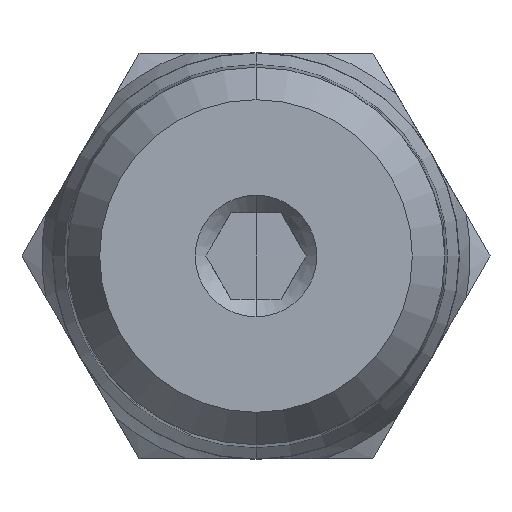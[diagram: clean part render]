
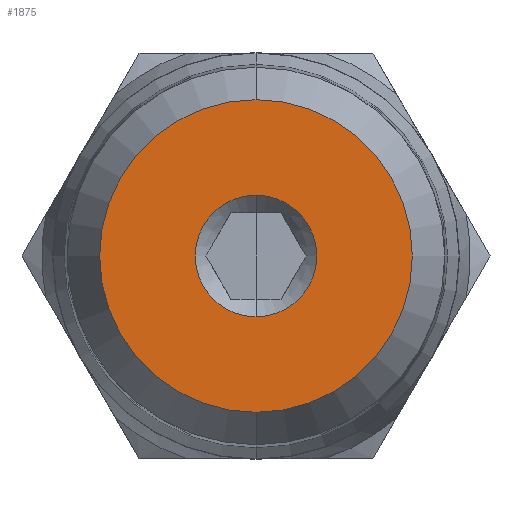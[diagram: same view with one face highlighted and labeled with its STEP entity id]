
A CAD part, front view. The second image highlights one B-rep face of the part: STEP entity #1875.
In plain terms, the highlighted planar face has unit normal (0, -1, 0).
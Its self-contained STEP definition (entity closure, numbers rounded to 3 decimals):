
#1633 = EDGE_CURVE ( 'NONE', #12398, #12400, #9580, .T. ) ;
#1634 = EDGE_CURVE ( 'NONE', #12423, #12405, #9583, .T. ) ;
#1875 = ADVANCED_FACE ( 'NONE', ( #10451, #10452 ), #2373, .T. ) ;
#1981 = CARTESIAN_POINT ( 'NONE',  ( 0., 0., 0. ) ) ;
#1982 = DIRECTION ( 'NONE',  ( 0., 1., 0. ) ) ;
#1983 = DIRECTION ( 'NONE',  ( 0., 0., 1. ) ) ;
#1984 = CARTESIAN_POINT ( 'NONE',  ( 0., 0., 0. ) ) ;
#1985 = DIRECTION ( 'NONE',  ( 0., -1., 0. ) ) ;
#1986 = DIRECTION ( 'NONE',  ( 0., 0., -1. ) ) ;
#2373 = PLANE ( 'NONE',  #11291 ) ;
#2380 = CARTESIAN_POINT ( 'NONE',  ( 0., 0., 0. ) ) ;
#2381 = DIRECTION ( 'NONE',  ( 0., -1., 0. ) ) ;
#2382 = DIRECTION ( 'NONE',  ( 0., 0., -1. ) ) ;
#3815 = CIRCLE ( 'NONE', #13919, 5.4 ) ;
#3823 = CIRCLE ( 'NONE', #13920, 2.1 ) ;
#5543 = EDGE_CURVE ( 'NONE', #12405, #12423, #3815, .T. ) ;
#5548 = EDGE_CURVE ( 'NONE', #12400, #12398, #3823, .T. ) ;
#5629 = EDGE_LOOP ( 'NONE', ( #10912, #10913 ) ) ;
#5636 = EDGE_LOOP ( 'NONE', ( #10914, #10915 ) ) ;
#6748 = AXIS2_PLACEMENT_3D ( 'NONE', #1981, #1982, #1983 ) ;
#6749 = AXIS2_PLACEMENT_3D ( 'NONE', #1984, #1985, #1986 ) ;
#8863 = CARTESIAN_POINT ( 'NONE',  ( 0., 0., 0. ) ) ;
#8864 = DIRECTION ( 'NONE',  ( 0., -1., 0. ) ) ;
#8865 = DIRECTION ( 'NONE',  ( 0., 0., -1. ) ) ;
#8879 = CARTESIAN_POINT ( 'NONE',  ( 0., 0., 0. ) ) ;
#8880 = DIRECTION ( 'NONE',  ( 0., 1., 0. ) ) ;
#8881 = DIRECTION ( 'NONE',  ( 0., 0., 1. ) ) ;
#9580 = CIRCLE ( 'NONE', #6748, 2.1 ) ;
#9583 = CIRCLE ( 'NONE', #6749, 5.4 ) ;
#10451 = FACE_OUTER_BOUND ( 'NONE', #5629, .T. ) ;
#10452 = FACE_BOUND ( 'NONE', #5636, .T. ) ;
#10912 = ORIENTED_EDGE ( 'NONE', *, *, #1634, .T. ) ;
#10913 = ORIENTED_EDGE ( 'NONE', *, *, #5543, .T. ) ;
#10914 = ORIENTED_EDGE ( 'NONE', *, *, #5548, .T. ) ;
#10915 = ORIENTED_EDGE ( 'NONE', *, *, #1633, .T. ) ;
#11291 = AXIS2_PLACEMENT_3D ( 'NONE', #2380, #2381, #2382 ) ;
#12398 = VERTEX_POINT ( 'NONE', #13826 ) ;
#12400 = VERTEX_POINT ( 'NONE', #13827 ) ;
#12405 = VERTEX_POINT ( 'NONE', #13830 ) ;
#12423 = VERTEX_POINT ( 'NONE', #13838 ) ;
#13826 = CARTESIAN_POINT ( 'NONE',  ( 0., 0., 2.1 ) ) ;
#13827 = CARTESIAN_POINT ( 'NONE',  ( 0., 0., -2.1 ) ) ;
#13830 = CARTESIAN_POINT ( 'NONE',  ( 0., 0., -5.4 ) ) ;
#13838 = CARTESIAN_POINT ( 'NONE',  ( 0., 0., 5.4 ) ) ;
#13919 = AXIS2_PLACEMENT_3D ( 'NONE', #8863, #8864, #8865 ) ;
#13920 = AXIS2_PLACEMENT_3D ( 'NONE', #8879, #8880, #8881 ) ;
